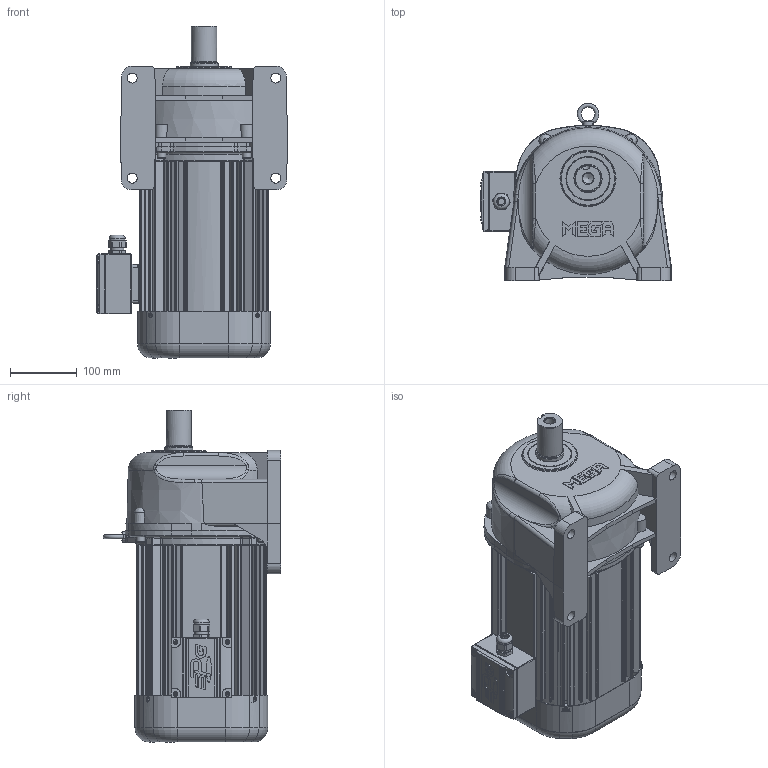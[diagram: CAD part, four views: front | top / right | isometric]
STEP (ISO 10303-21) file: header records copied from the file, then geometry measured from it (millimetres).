
FILE_DESCRIPTION(/* description */ (''),/* implementation_level */ '2;1');
FILE_NAME(/* name */ 'Z:\동력 3D 파일\PML153-(5~30)-PA(B)220[ ]L_(3D).stp',/* time_stamp */ '2021-10-18T16:01:47+09:00',/* author */ ('jaebok'),/* organization */ (''),/* preprocessor_version */ 'ST-DEVELOPER v18.1',/* originating_system */ 'Autodesk Inventor 2022',/* authorisation */ '');
FILE_SCHEMA (('AUTOMOTIVE_DESIGN { 1 0 10303 214 3 1 1 }'));
Length unit declared in the file: millimetre
Products named in the file (1): 부품2
Bounding box: 286 x 266.09 x 497.5 mm (x, y, z)
Volume: 4376075.6 mm3; surface area: 1174008.6 mm2
Topology: 2 solids, 33 shells, 3329 faces, 8535 edges, 5243 vertices
Faces by surface type: plane 1080, cylinder 856, bspline 814, torus 330, cone 209, sphere 40
Full cylindrical faces by diameter (mm): 2 x1, 3.25 x1, 3.5 x4, 3.6 x4, 4 x21, 5 x13, 6 x5, 6.647 x4, 6.8 x5, 7 x9, 8 x13, 8.8 x4, 9 x4, 10 x1, 12.5 x1, 13 x4, 15 x5, 16 x1, 20 x2, 20.6 x1, 21 x1, 23.5 x1, 23.6 x1, 25 x1, 28 x1, 31 x1, 36 x1, 38 x1, 39.6 x1, 40.15 x1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
Entity records: 131978 total; most frequent: CARTESIAN_POINT 52651, ORIENTED_EDGE 16816, DIRECTION 14564, EDGE_CURVE 8408, AXIS2_PLACEMENT_3D 5848, VERTEX_POINT 5242, EDGE_LOOP 3552, FACE_OUTER_BOUND 3329
